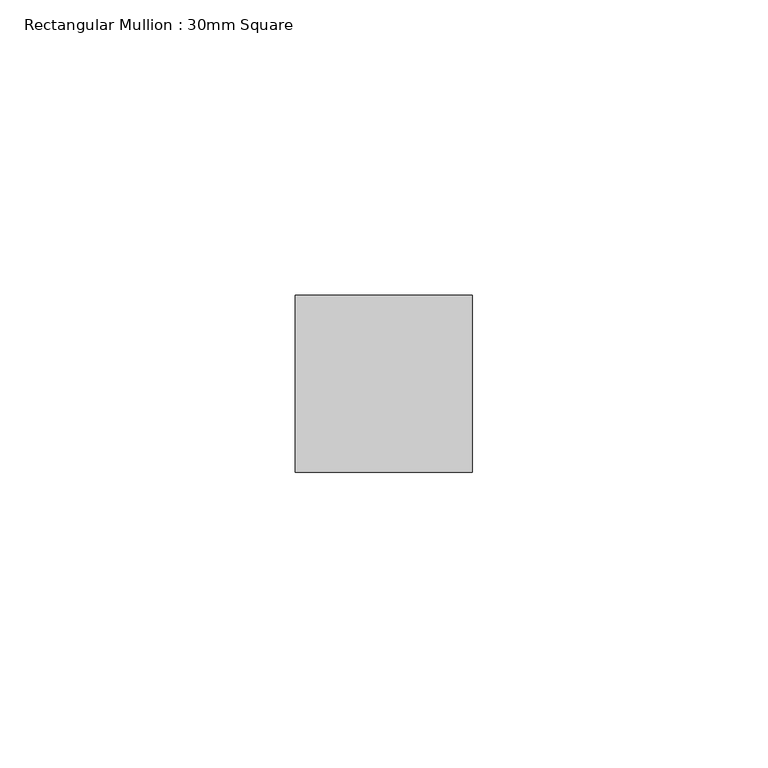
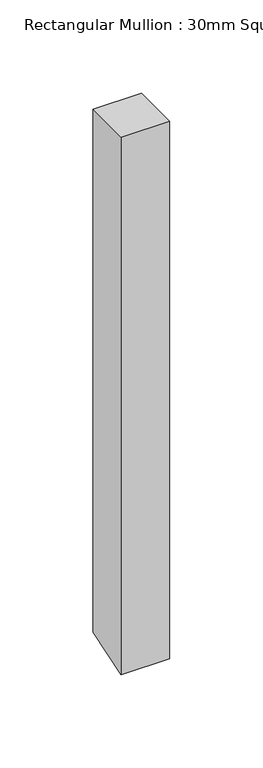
"""IFC4 building model written with IfcOpenShell, lengths in millimetres: member geometry, Rectangular Mullion : 30mm Square."""

from ifc_helpers import new_model, si_unit, frame, origin, place, context, project, spatial, polyline, outline, extrude, source, transform, mapped, element, save


def rectangular_mullion_30mm_square_e5194141(model_context):
    return source(origin(), model_context, "Body", "SweptSolid", [
        extrude(outline(polyline([(-15.0, 0.0), (15.0, 0.0), (15.0, -342.1521112), (-15.0, -351.7780141), (-15.0, 0.0)])), frame((-15.0, 0.0, 0.0), z_axis=(1.0, 0.0, 0.0), x_axis=(0.0, 1.0, 0.0)), (0.0, 0.0, 1.0), 30.0),
    ])


if __name__ == "__main__":
    model = new_model("IFC4")
    model_context = context("Model", 3, world=origin())
    ifc_project = project(units=[si_unit("LENGTHUNIT", "METRE", prefix="MILLI")], contexts=[model_context])
    site = spatial("IfcSite", under=ifc_project)
    building = spatial("IfcBuilding", under=site)
    placement = place(None, origin())
    rectangular_mullion_30mm_square_shape = rectangular_mullion_30mm_square_e5194141(model_context)
    element("IfcMember", 1, ObjectType="Rectangular Mullion : 30mm Square", at=placement, inside=building, context=model_context, shape_type="MappedRepresentation", body=[
        mapped(rectangular_mullion_30mm_square_shape, transform((0.0, 0.0, 0.0), x_axis=(1.0, 0.0, 0.0), y_axis=(0.0, 1.0, 0.0), z_axis=(0.0, 0.0, 1.0))),
    ])
    save(model, "model.ifc")
